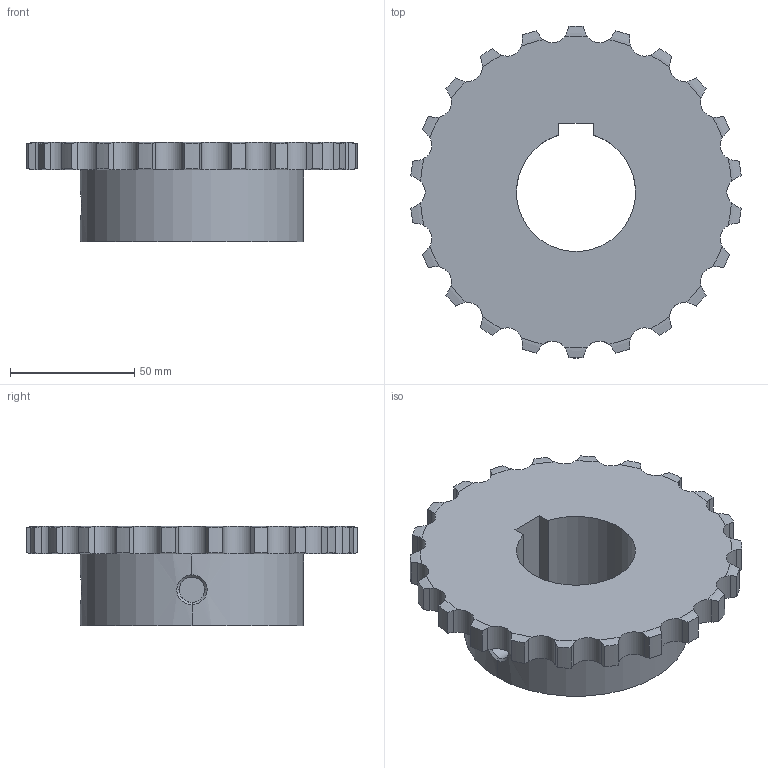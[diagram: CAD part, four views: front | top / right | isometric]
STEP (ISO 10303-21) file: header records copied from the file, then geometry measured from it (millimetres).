
FILE_DESCRIPTION((''),'2;1');
FILE_NAME('510-401-4822_PRT','2021-02-13T',('Brieden'),('Brieden'),'PRO/ENGINEER BY PARAMETRIC TECHNOLOGY CORPORATION, 2010160','PRO/ENGINEER BY PARAMETRIC TECHNOLOGY CORPORATION, 2010160','');
FILE_SCHEMA(('AUTOMOTIVE_DESIGN { 1 0 10303 214 1 1 1 1 }'));
Length unit declared in the file: millimetre
Products named in the file (1): 510-401-4822_PRT
Bounding box: 133.19 x 133.85 x 40 mm (x, y, z)
Volume: 248702 mm3; surface area: 43119.5 mm2
Topology: 1 solids, 1 shells, 153 faces, 441 edges, 292 vertices
Faces by surface type: cylinder 95, torus 44, plane 8, bspline 6
Entity records: 7588 total; most frequent: CARTESIAN_POINT 2425, ORIENTED_EDGE 882, DIRECTION 689, PRESENTATION_STYLE_ASSIGNMENT 442, STYLED_ITEM 442, CURVE_STYLE 441, EDGE_CURVE 441, VERTEX_POINT 292
